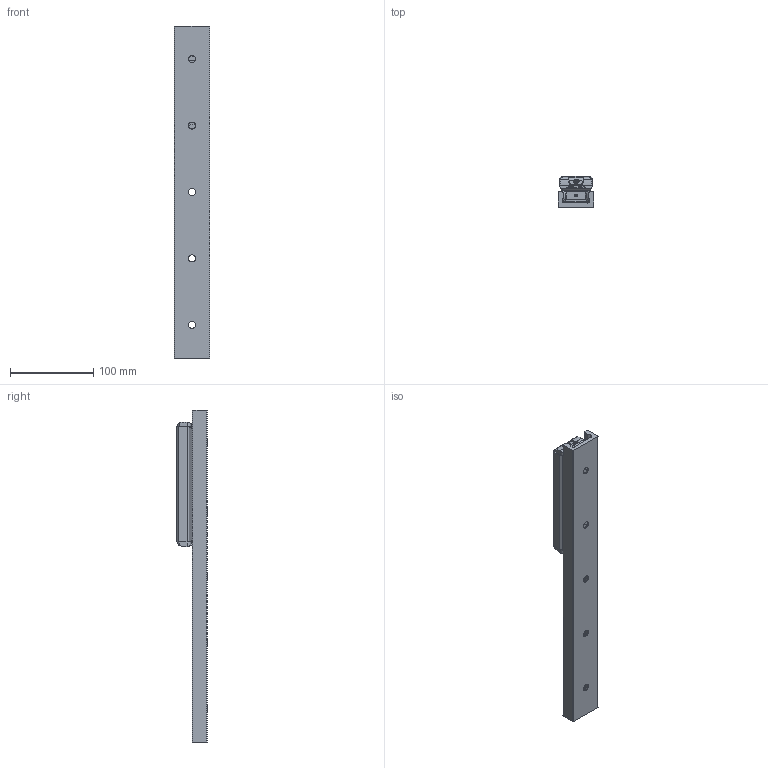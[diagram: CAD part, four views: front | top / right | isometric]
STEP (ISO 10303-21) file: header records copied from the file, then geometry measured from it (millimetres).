
FILE_DESCRIPTION( ( 'STEP AP214' ), '1' );
FILE_NAME( 'p:/temp/worker_9/temp/exporttempdir_1912_477_ipPet/format_1/TGV-00400_1_RV43G-3.stp', '2021-05-14T18:56:04', ( 'License CC BY-ND 4.0' ), ( 'CADENAS' ), ' ', 'PARTsolutions', ' ' );
FILE_SCHEMA( ( 'AUTOMOTIVE_DESIGN { 1 0 10303 214 1 1 1 1 }' ) );
Length unit declared in the file: millimetre
Products named in the file (6): TGV-00400/1/RV43G-3; _TGV43-0400-(3-1); _RVG43-3-slider; _RGNV43R; _RGAV43R; _WR43G-01
Assembly tree (7 placements, depth 2):
  TGV-00400/1/RV43G-3
    _TGV43-0400-(3-1)
    _RVG43-3-slider
    _RGNV43R  x2
    _RGAV43R
    _WR43G-01  x2
Bounding box: 43 x 37 x 400 mm (x, y, z)
Volume: 267469.4 mm3; surface area: 106049.3 mm2
Topology: 7 solids, 7 shells, 1051 faces, 2749 edges, 1794 vertices
Faces by surface type: plane 663, cylinder 301, cone 44, bspline 34, torus 9
Full cylindrical faces by diameter (mm): 1.76 x4, 3 x8, 6 x4, 6.647 x4, 6.8 x3, 8 x3, 8.5 x5, 11 x11, 15 x6, 15.5 x1, 18.98 x2, 19 x1, 31.4 x6
Entity records: 24843 total; most frequent: CARTESIAN_POINT 3966, DIRECTION 3317, ORIENTED_EDGE 3094, EDGE_CURVE 1547, AXIS2_PLACEMENT_3D 1255, VERTEX_POINT 1066, EDGE_LOOP 827, LINE 807
